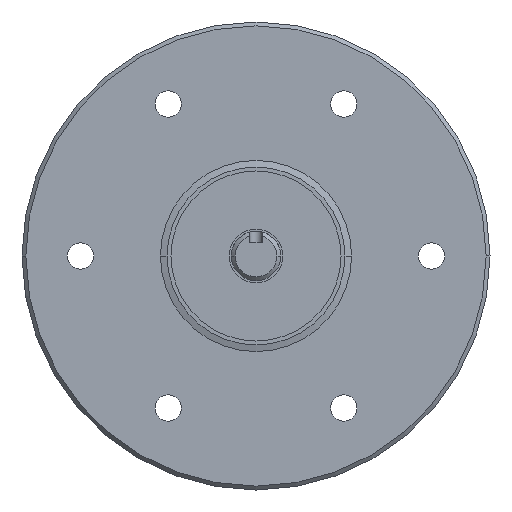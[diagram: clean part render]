
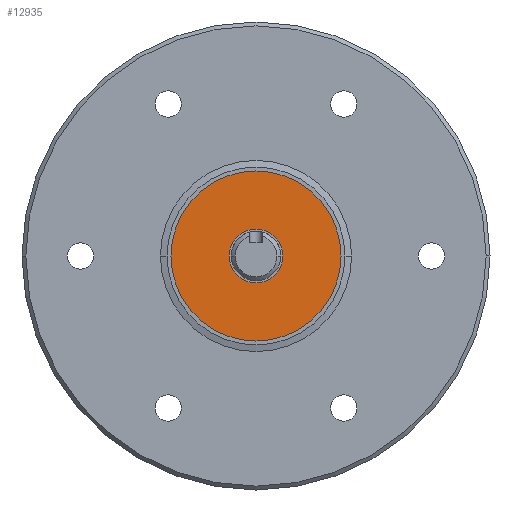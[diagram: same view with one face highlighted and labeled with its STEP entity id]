
A CAD part, left-side view. The second image highlights one B-rep face of the part: STEP entity #12935.
In plain terms, the highlighted planar face has unit normal (-1, 0, 0).
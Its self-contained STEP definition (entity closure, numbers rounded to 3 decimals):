
#12406 = VERTEX_POINT ( 'NONE', #15656 ) ;
#12410 = EDGE_CURVE ( 'NONE', #12411, #12406, #15651, .T. ) ;
#12411 = VERTEX_POINT ( 'NONE', #15646 ) ;
#12477 = VERTEX_POINT ( 'NONE', #15810 ) ;
#12479 = EDGE_CURVE ( 'NONE', #12477, #12480, #15808, .T. ) ;
#12480 = VERTEX_POINT ( 'NONE', #15866 ) ;
#12743 = EDGE_LOOP ( 'NONE', ( #12913, #12914 ) ) ;
#12913 = ORIENTED_EDGE ( 'NONE', *, *, #12410, .T. ) ;
#12914 = ORIENTED_EDGE ( 'NONE', *, *, #12934, .T. ) ;
#12934 = EDGE_CURVE ( 'NONE', #12406, #12411, #17934, .T. ) ;
#12935 = ADVANCED_FACE ( 'NONE', ( #17986, #17985 ), #17984, .T. ) ;
#12936 = EDGE_LOOP ( 'NONE', ( #12937, #12939 ) ) ;
#12937 = ORIENTED_EDGE ( 'NONE', *, *, #12938, .F. ) ;
#12938 = EDGE_CURVE ( 'NONE', #12480, #12477, #17979, .T. ) ;
#12939 = ORIENTED_EDGE ( 'NONE', *, *, #12479, .F. ) ;
#15646 = CARTESIAN_POINT ( 'NONE',  ( 65.7, -6.85, 0. ) ) ;
#15647 = DIRECTION ( 'NONE',  ( 0., -1., 0. ) ) ;
#15648 = DIRECTION ( 'NONE',  ( 1., 0., 0. ) ) ;
#15649 = CARTESIAN_POINT ( 'NONE',  ( 65.7, 0., 0. ) ) ;
#15650 = AXIS2_PLACEMENT_3D ( 'NONE', #15649, #15648, #15647 ) ;
#15651 = CIRCLE ( 'NONE', #15650, 6.85 ) ;
#15656 = CARTESIAN_POINT ( 'NONE',  ( 65.7, 6.85, 0. ) ) ;
#15804 = DIRECTION ( 'NONE',  ( 0., -1., 0. ) ) ;
#15805 = DIRECTION ( 'NONE',  ( 1., 0., 0. ) ) ;
#15806 = CARTESIAN_POINT ( 'NONE',  ( 65.7, 0., 0. ) ) ;
#15807 = AXIS2_PLACEMENT_3D ( 'NONE', #15806, #15805, #15804 ) ;
#15808 = CIRCLE ( 'NONE', #15807, 21.8 ) ;
#15810 = CARTESIAN_POINT ( 'NONE',  ( 65.7, -21.8, 0. ) ) ;
#15866 = CARTESIAN_POINT ( 'NONE',  ( 65.7, 21.8, 0. ) ) ;
#17934 = CIRCLE ( 'NONE', #17990, 6.85 ) ;
#17975 = DIRECTION ( 'NONE',  ( 0., -1., 0. ) ) ;
#17976 = DIRECTION ( 'NONE',  ( 1., 0., 0. ) ) ;
#17977 = CARTESIAN_POINT ( 'NONE',  ( 65.7, 0., 0. ) ) ;
#17978 = AXIS2_PLACEMENT_3D ( 'NONE', #17977, #17976, #17975 ) ;
#17979 = CIRCLE ( 'NONE', #17978, 21.8 ) ;
#17980 = DIRECTION ( 'NONE',  ( 0., -1., 0. ) ) ;
#17981 = DIRECTION ( 'NONE',  ( -1., 0., 0. ) ) ;
#17982 = CARTESIAN_POINT ( 'NONE',  ( 65.7, 0., 0. ) ) ;
#17983 = AXIS2_PLACEMENT_3D ( 'NONE', #17982, #17981, #17980 ) ;
#17984 = PLANE ( 'NONE',  #17983 ) ;
#17985 = FACE_BOUND ( 'NONE', #12743, .T. ) ;
#17986 = FACE_OUTER_BOUND ( 'NONE', #12936, .T. ) ;
#17987 = DIRECTION ( 'NONE',  ( 0., -1., 0. ) ) ;
#17988 = DIRECTION ( 'NONE',  ( 1., 0., 0. ) ) ;
#17989 = CARTESIAN_POINT ( 'NONE',  ( 65.7, 0., 0. ) ) ;
#17990 = AXIS2_PLACEMENT_3D ( 'NONE', #17989, #17988, #17987 ) ;
